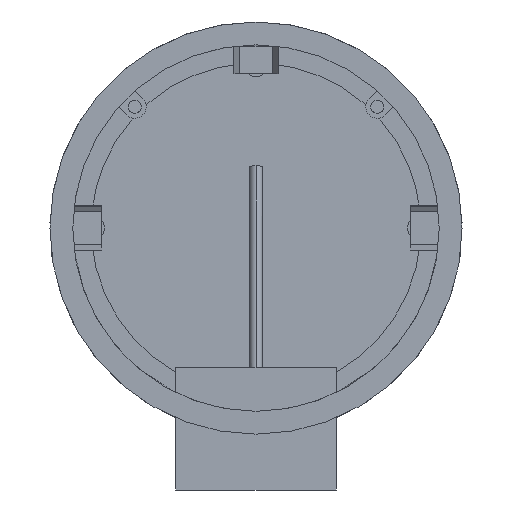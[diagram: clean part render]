
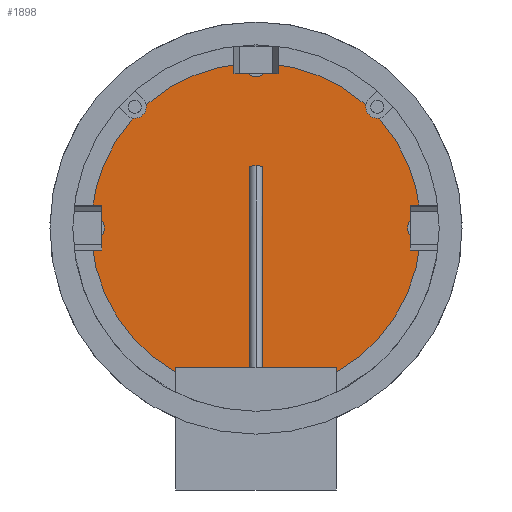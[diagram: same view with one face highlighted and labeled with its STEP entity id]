
A CAD part, front view. The second image highlights one B-rep face of the part: STEP entity #1898.
In plain terms, the highlighted planar face has unit normal (0, -1, 0).
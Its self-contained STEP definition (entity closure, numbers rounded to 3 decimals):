
#306=CARTESIAN_POINT('',(0.,-86.,0.));
#307=DIRECTION('',(0.,-1.,0.));
#308=DIRECTION('',(0.997,0.,0.078));
#309=AXIS2_PLACEMENT_3D('',#306,#307,#308);
#329=CARTESIAN_POINT('',(0.,-86.,0.));
#330=DIRECTION('',(0.,-1.,0.));
#331=DIRECTION('',(-0.078,0.,0.997));
#332=AXIS2_PLACEMENT_3D('',#329,#330,#331);
#342=CARTESIAN_POINT('',(0.,-86.,0.));
#343=DIRECTION('',(0.,-1.,0.));
#344=DIRECTION('',(0.486,0.,-0.874));
#345=AXIS2_PLACEMENT_3D('',#342,#343,#344);
#369=CARTESIAN_POINT('',(0.,-86.,0.));
#370=DIRECTION('',(0.,-1.,0.));
#371=DIRECTION('',(-0.997,0.,-0.078));
#372=AXIS2_PLACEMENT_3D('',#369,#370,#371);
#392=DIRECTION('',(-1.,0.,0.));
#393=VECTOR('',#392,350.);
#394=CARTESIAN_POINT('',(175.,-86.,-305.));
#395=LINE('',#394,#393);
#396=DIRECTION('',(0.,0.,1.));
#397=VECTOR('',#396,9.603);
#398=CARTESIAN_POINT('',(-175.,-86.,-314.603));
#399=LINE('',#398,#397);
#400=CARTESIAN_POINT('',(-359.,-86.,0.));
#401=DIRECTION('',(0.,1.,0.));
#402=DIRECTION('',(0.003,0.,1.));
#403=AXIS2_PLACEMENT_3D('',#400,#401,#402);
#405=CARTESIAN_POINT('',(0.,-86.,359.));
#406=DIRECTION('',(0.,1.,0.));
#407=DIRECTION('',(1.,0.,-0.003));
#408=AXIS2_PLACEMENT_3D('',#405,#406,#407);
#410=CARTESIAN_POINT('',(359.,-86.,0.));
#411=DIRECTION('',(0.,1.,0.));
#412=DIRECTION('',(-0.003,0.,-1.));
#413=AXIS2_PLACEMENT_3D('',#410,#411,#412);
#415=DIRECTION('',(0.,0.,-1.));
#416=VECTOR('',#415,9.603);
#417=CARTESIAN_POINT('',(175.,-86.,-305.));
#418=LINE('',#417,#416);
#1303=CARTESIAN_POINT('',(28.,-86.,358.909));
#1304=CARTESIAN_POINT('',(-28.,-86.,358.909));
#1305=VERTEX_POINT('',#1303);
#1306=VERTEX_POINT('',#1304);
#1351=CARTESIAN_POINT('',(175.,-86.,-305.));
#1352=CARTESIAN_POINT('',(-175.,-86.,-305.));
#1353=VERTEX_POINT('',#1351);
#1354=VERTEX_POINT('',#1352);
#1393=CARTESIAN_POINT('',(175.,-86.,-314.603));
#1394=VERTEX_POINT('',#1393);
#1395=CARTESIAN_POINT('',(-175.,-86.,-314.603));
#1396=VERTEX_POINT('',#1395);
#1473=CARTESIAN_POINT('',(358.909,-86.,-28.));
#1474=CARTESIAN_POINT('',(358.909,-86.,28.));
#1475=VERTEX_POINT('',#1473);
#1476=VERTEX_POINT('',#1474);
#1501=CARTESIAN_POINT('',(-358.909,-86.,28.));
#1502=CARTESIAN_POINT('',(-358.909,-86.,-28.));
#1503=VERTEX_POINT('',#1501);
#1504=VERTEX_POINT('',#1502);
#1878=CARTESIAN_POINT('',(0.,-86.,0.));
#1879=DIRECTION('',(0.,-1.,0.));
#1880=DIRECTION('',(1.,0.,0.));
#1881=AXIS2_PLACEMENT_3D('',#1878,#1879,#1880);
#1882=PLANE('',#1881);
#1884=ORIENTED_EDGE('',*,*,#1883,.T.);
#1885=ORIENTED_EDGE('',*,*,#1739,.F.);
#1886=ORIENTED_EDGE('',*,*,#1830,.F.);
#1888=ORIENTED_EDGE('',*,*,#1887,.F.);
#1889=ORIENTED_EDGE('',*,*,#1800,.F.);
#1891=ORIENTED_EDGE('',*,*,#1890,.F.);
#1892=ORIENTED_EDGE('',*,*,#1784,.F.);
#1893=ORIENTED_EDGE('',*,*,#1844,.F.);
#1894=ORIENTED_EDGE('',*,*,#1813,.F.);
#1895=ORIENTED_EDGE('',*,*,#1671,.F.);
#1896=EDGE_LOOP('',(#1884,#1885,#1886,#1888,#1889,#1891,#1892,#1893,#1894,
#1895));
#1897=FACE_OUTER_BOUND('',#1896,.F.);
#310=CIRCLE('',#309,360.);
#333=CIRCLE('',#332,360.);
#346=CIRCLE('',#345,360.);
#373=CIRCLE('',#372,360.);
#404=CIRCLE('',#403,28.);
#409=CIRCLE('',#408,28.);
#414=CIRCLE('',#413,28.);
#1671=EDGE_CURVE('',#1353,#1394,#418,.T.);
#1739=EDGE_CURVE('',#1396,#1354,#399,.T.);
#1784=EDGE_CURVE('',#1476,#1305,#310,.T.);
#1800=EDGE_CURVE('',#1306,#1503,#333,.T.);
#1813=EDGE_CURVE('',#1394,#1475,#346,.T.);
#1830=EDGE_CURVE('',#1504,#1396,#373,.T.);
#1844=EDGE_CURVE('',#1475,#1476,#414,.T.);
#1883=EDGE_CURVE('',#1353,#1354,#395,.T.);
#1887=EDGE_CURVE('',#1503,#1504,#404,.T.);
#1890=EDGE_CURVE('',#1305,#1306,#409,.T.);
#1898=ADVANCED_FACE('',(#1897),#1882,.T.);
